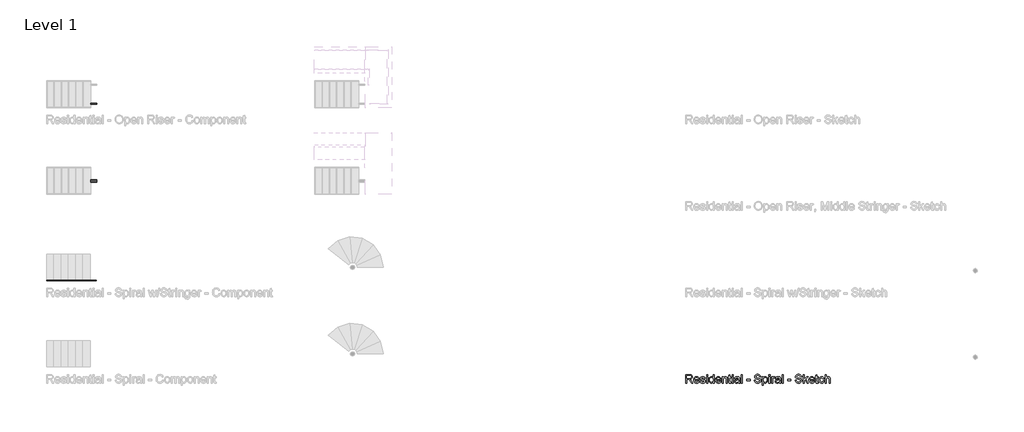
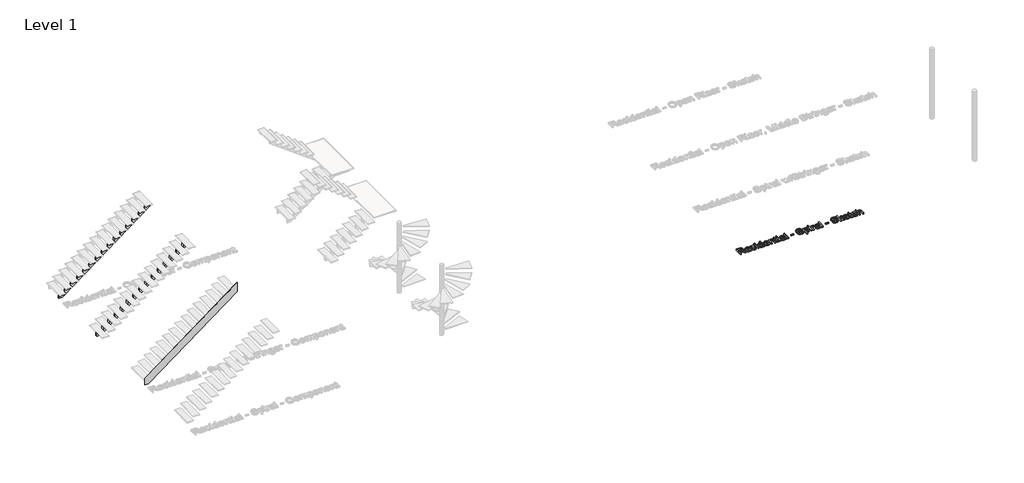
# One storey, part 4 of 26: 3 members, 1 proxy.
"""IFC4 building model written with IfcOpenShell, lengths in millimetres."""

import ifcopenshell
import ifcopenshell.guid

model = None  # the IFC model being written
_history = None  # IfcOwnerHistory: only IFC2X3 demands one
_inside = {}  # id of a spatial element -> (the spatial element, [elements in it])
_under = {}  # id of a project, library or spatial element -> (it, [spatial elements below it])
_declared = {}  # id of a project -> (the project, [libraries it declares])
_typed = {}  # id of a type object -> (the type object, [elements of that type])
_made_of = {}  # id of a material, layer set ... -> (it, [elements and type objects made of it])


def new_model(schema):
    """Start an empty IFC model of exactly this schema.

    Asked for "IFC4X3", IfcOpenShell would pick the latest addendum, in which some entities
    have other attributes; the version numbers below select the first issue.
    IFC2X3 requires an IfcOwnerHistory on every rooted entity: one is made here for all.
    """
    global model, _history
    if schema == "IFC4X3":
        model = ifcopenshell.file(schema_version=(4, 3, 0, 0))
    else:
        model = ifcopenshell.file(schema=schema)
    _inside.clear()
    _under.clear()
    _declared.clear()
    _typed.clear()
    _made_of.clear()
    _history = None
    if model.schema == "IFC2X3":
        org = make("IfcOrganization", Name="unknown")
        user = make(
            "IfcPersonAndOrganization",
            ThePerson=make("IfcPerson", FamilyName="unknown"),
            TheOrganization=org,
        )
        app = make(
            "IfcApplication",
            ApplicationDeveloper=org,
            Version="unknown",
            ApplicationFullName="unknown",
            ApplicationIdentifier="unknown",
        )
        _history = make(
            "IfcOwnerHistory",
            OwningUser=user,
            OwningApplication=app,
            ChangeAction="ADDED",
            CreationDate=0,
        )
    return model


def make(cls, **values):
    """One entity of the class cls with the attributes given. An attribute that is None is left unset."""
    return model.create_entity(
        cls, **{name: value for name, value in values.items() if value is not None}
    )


def rooted(cls, **values):
    """An entity with a GlobalId (a new one), such as an element, a storey or a relation."""
    return make(cls, GlobalId=ifcopenshell.guid.new(), OwnerHistory=_history, **values)


def si_unit(unit_type, name, prefix=None):
    """IfcSIUnit, for example si_unit("LENGTHUNIT", "METRE", prefix="MILLI")."""
    return make("IfcSIUnit", UnitType=unit_type, Prefix=prefix, Name=name)


def assignment(units):
    """IfcUnitAssignment: the units of a project."""
    return None if units is None else make("IfcUnitAssignment", Units=units)


def point(xyz):
    """IfcCartesianPoint."""
    return None if xyz is None else make("IfcCartesianPoint", Coordinates=xyz)


def direction(xyz):
    """IfcDirection."""
    return None if xyz is None else make("IfcDirection", DirectionRatios=xyz)


def frame(location, z_axis=None, x_axis=None):
    """IfcAxis2Placement3D, a coordinate frame: its origin and axes. An axis left out is left unset."""
    return make(
        "IfcAxis2Placement3D",
        Location=point(location),
        Axis=direction(z_axis),
        RefDirection=direction(x_axis),
    )


def origin():
    """The frame at (0, 0, 0) with its axes left unset."""
    return frame((0.0, 0.0, 0.0))


def origin_with_axes():
    """The frame at (0, 0, 0) with the z axis (0, 0, 1) and the x axis (1, 0, 0) written out."""
    return frame((0.0, 0.0, 0.0), z_axis=(0.0, 0.0, 1.0), x_axis=(1.0, 0.0, 0.0))


def place(relative_to, where):
    """IfcLocalPlacement: puts the frame where relative to a parent placement (None: the world)."""
    return make(
        "IfcLocalPlacement", PlacementRelTo=relative_to, RelativePlacement=where
    )


def context(
    kind, dimensions, precision=None, world=None, true_north=None, identifier=None
):
    """IfcGeometricRepresentationContext, for example the 3D "Model" context."""
    return make(
        "IfcGeometricRepresentationContext",
        ContextIdentifier=identifier,
        ContextType=kind,
        CoordinateSpaceDimension=dimensions,
        Precision=precision,
        WorldCoordinateSystem=world,
        TrueNorth=true_north,
    )


def project(units=None, contexts=None):
    """IfcProject with its units and contexts."""
    return rooted(
        "IfcProject",
        Name="project",
        RepresentationContexts=contexts,
        UnitsInContext=assignment(units),
    )


def spatial(cls, under=None, at=None, **own):
    """A site, building, storey or space (cls), placed at a placement, below another one or the project."""
    s = rooted(cls, ObjectPlacement=at, **own)
    if under is not None:
        _under.setdefault(under.id(), (under, []))[1].append(s)
    return s


def polyline(points):
    """IfcPolyline through the points."""
    return make("IfcPolyline", Points=[point(p) for p in points])


def outline(outer, holes=None, kind="AREA"):
    """IfcArbitraryClosedProfileDef: a profile drawn as a closed curve; with holes, ...WithVoids."""
    if holes is None:
        return make("IfcArbitraryClosedProfileDef", ProfileType=kind, OuterCurve=outer)
    return make(
        "IfcArbitraryProfileDefWithVoids",
        ProfileType=kind,
        OuterCurve=outer,
        InnerCurves=holes,
    )


def extrude(swept, where, along, depth):
    """IfcExtrudedAreaSolid: the profile swept, set in the frame where, extruded along a direction by depth."""
    return make(
        "IfcExtrudedAreaSolid",
        SweptArea=swept,
        Position=where,
        ExtrudedDirection=direction(along),
        Depth=depth,
    )


def shape(context_of_items, identifier, shape_type, items):
    """IfcShapeRepresentation: the items that make up one representation, for example the "Body"."""
    return make(
        "IfcShapeRepresentation",
        ContextOfItems=context_of_items,
        RepresentationIdentifier=identifier,
        RepresentationType=shape_type,
        Items=items,
    )


def made_of(thing, what):
    """Note that an element or type object is made of a material, layer set ...; save() writes the relation."""
    if what is not None:
        _made_of.setdefault(what.id(), (what, []))[1].append(thing)
    return thing


def element(
    cls,
    number,
    at=None,
    inside=None,
    cuts=None,
    type_object=None,
    material=None,
    context=None,
    identifier="Body",
    shape_type=None,
    held_by="IfcProductDefinitionShape",
    body=None,
    shapes=None,
    **own,
):
    """One element of the class cls, such as IfcWall. Its Tag is "e" and its number.

    at: its placement. inside: the storey or other place that contains it. cuts: it is an
    opening in that element (IfcRelVoidsElement). A single representation is given by context,
    identifier, shape_type and body (its items); several are given by shapes. held_by: the class
    of the entity that holds the representations. save() writes the other relations.
    """
    e = rooted(cls, Tag="e%d" % number, ObjectPlacement=at, **own)
    if body is not None:
        shapes = [shape(context, identifier, shape_type, body)]
    if shapes is not None:
        e.Representation = make(held_by, Representations=shapes)
    if inside is not None:
        _inside.setdefault(inside.id(), (inside, []))[1].append(e)
    if cuts is not None:
        rooted(
            "IfcRelVoidsElement", RelatingBuildingElement=cuts, RelatedOpeningElement=e
        )
    if type_object is not None:
        _typed.setdefault(type_object.id(), (type_object, []))[1].append(e)
    return made_of(e, material)


def aggregate(whole, parts):
    """IfcRelAggregates: a whole, such as a stair, and the parts it consists of."""
    return rooted("IfcRelAggregates", RelatingObject=whole, RelatedObjects=parts)


def save(model, path):
    """Write the relations noted so far, then the file.

    IfcRelAggregates (storeys below a building ...), IfcRelContainedInSpatialStructure (elements
    in a storey), IfcRelDefinesByType, IfcRelAssociatesMaterial and IfcRelDeclares: one each for
    every whole, place, type object, material and project.
    """
    for whole, parts in _under.values():
        aggregate(whole, parts)
    for where, things in _inside.values():
        rooted(
            "IfcRelContainedInSpatialStructure",
            RelatedElements=things,
            RelatingStructure=where,
        )
    for kind, things in _typed.values():
        rooted("IfcRelDefinesByType", RelatedObjects=things, RelatingType=kind)
    for what, things in _made_of.values():
        rooted("IfcRelAssociatesMaterial", RelatedObjects=things, RelatingMaterial=what)
    for by, libraries in _declared.values():
        rooted("IfcRelDeclares", RelatingContext=by, RelatedDefinitions=libraries)
    model.write(path)


model = new_model("IFC4")

# Units and contexts
model_context = context("Model", 3, world=origin())
ifc_project = project(units=[si_unit("LENGTHUNIT", "METRE", prefix="MILLI")], contexts=[model_context])

# Site, building, storey
site = spatial("IfcSite", under=ifc_project)
building = spatial("IfcBuilding", under=site)
storey = spatial("IfcBuildingStorey", under=building, Name="Level 1", Elevation=0.0)

# Proxy
placement = place(None, origin())
element("IfcBuildingElementProxy", 1, Name="12\" Arial", ObjectType="12\" Arial", at=placement, inside=storey, context=model_context, shape_type="SweptSolid", body=[
    extrude(outline(polyline([(-4715.4981187, -17955.1232123), (-4715.4981187, -17655.012443), (-4586.1779264, -17655.012443), (-4551.420835, -17657.0365055), (-4526.1337918, -17663.108693), (-4507.6516283, -17674.3188854), (-4493.3091764, -17691.7569623), (-4484.1047293, -17713.380544), (-4481.0365802, -17737.1472507), (-4486.1196331, -17766.7113854), (-4501.3687918, -17791.219943), (-4512.9201439, -17801.2074551), (-4527.2419889, -17809.1892219), (-4564.1971571, -17819.13552), (-4542.875811, -17835.1814815), (-4512.4690802, -17873.7943661), (-4462.4261956, -17955.1232123), (-4506.0213879, -17955.1232123), (-4545.0738879, -17892.9176354), (-4573.2825418, -17851.7403277), (-4593.1018687, -17832.2873469), (-4610.9429264, -17825.1435969), (-4632.7038879, -17823.8247507), (-4677.9842725, -17823.8247507), (-4677.9842725, -17955.1232123), (-4715.4981187, -17955.1232123)]), holes=[polyline([(-4677.9842725, -17786.3109046), (-4594.0177341, -17786.3109046), (-4569.9029985, -17784.9828998), (-4551.1918687, -17780.9988854), (-4537.1058591, -17774.0932604), (-4526.8664841, -17764.0004238), (-4520.6294408, -17751.7919382), (-4518.5504264, -17738.5393661), (-4522.5161235, -17720.2403757), (-4534.4132148, -17705.494943), (-4554.8828062, -17695.7684527), (-4584.5660033, -17692.5262892), (-4677.9842725, -17692.5262892), (-4677.9842725, -17786.3109046)])]), origin_with_axes(), (0.0, 0.0, 1.0), 50.8),
    extrude(outline(polyline([(-4265.7715802, -17889.4739815), (-4228.9904264, -17894.1632123), (-4242.2429985, -17921.8772988), (-4263.3903302, -17942.5941738), (-4291.9561716, -17955.5078757), (-4327.4642725, -17959.812443), (-4350.7409913, -17957.955526), (-4371.4807629, -17952.3847748), (-4389.6835874, -17943.1001894), (-4405.3494648, -17930.10177), (-4417.9471932, -17913.7512832), (-4426.9455706, -17894.4104959), (-4432.344597, -17872.0794082), (-4434.1442725, -17846.75802), (-4432.3262797, -17820.5780079), (-4426.8723014, -17797.5027796), (-4417.7823374, -17777.5323349), (-4405.0563879, -17760.6666738), (-4389.4317244, -17747.2675632), (-4371.6456187, -17737.69677), (-4351.6980706, -17731.954294), (-4329.5890802, -17730.0401354), (-4308.1921752, -17731.9497147), (-4288.8422293, -17737.6784527), (-4271.5392425, -17747.2263493), (-4256.2832148, -17760.5934046), (-4243.8297353, -17777.422431), (-4234.9343927, -17797.3562411), (-4229.5971872, -17820.3948349), (-4227.8181187, -17846.5382123), (-4228.0379264, -17856.6493661), (-4396.6304264, -17856.6493661), (-4390.1369408, -17884.7297988), (-4375.0526379, -17905.3734046), (-4353.2825177, -17918.0672988), (-4326.7315802, -17922.2985969), (-4306.7657148, -17920.338645), (-4289.9504264, -17914.4587892), (-4276.2857148, -17904.2926834), (-4265.7715802, -17889.4739815)]), holes=[polyline([(-4396.6304264, -17819.13552), (-4265.3319648, -17819.13552), (-4270.4058591, -17799.316193), (-4280.3521571, -17785.1385969), (-4302.2230225, -17771.9501354), (-4329.7356187, -17767.5539815), (-4355.0226619, -17771.0617459), (-4375.9318687, -17781.5850392), (-4390.4666523, -17797.9881882), (-4396.6304264, -17819.13552)])]), origin_with_axes(), (0.0, 0.0, 1.0), 50.8),
    extrude(outline(polyline([(-4204.3719648, -17889.4739815), (-4166.8581187, -17884.7847507), (-4160.9416283, -17900.8307123), (-4149.493311, -17912.6270584), (-4132.4398975, -17919.8807123), (-4109.7081187, -17922.2985969), (-4087.2510994, -17920.0822027), (-4071.4615802, -17913.43302), (-4062.1197533, -17903.7981161), (-4059.005811, -17892.6245584), (-4062.1380706, -17883.0629238), (-4071.5348494, -17875.7726354), (-4110.1477341, -17865.0753277), (-4166.638311, -17846.7213854), (-4180.9349696, -17837.4986209), (-4191.2934071, -17825.2901354), (-4197.5854023, -17810.8744142), (-4199.6827341, -17795.029943), (-4197.9975418, -17780.4951594), (-4192.9419648, -17767.0777315), (-4184.973936, -17755.3088613), (-4174.5513879, -17745.7197507), (-4150.7022533, -17734.6194623), (-4118.4271571, -17730.0401354), (-4094.010186, -17731.8810248), (-4072.7804264, -17737.403693), (-4055.7086956, -17746.0677796), (-4043.765811, -17757.3329238), (-4035.8527341, -17772.0325632), (-4030.8704264, -17791.0001354), (-4068.3842725, -17795.6893661), (-4073.1192966, -17783.8838613), (-4082.4885994, -17774.9908084), (-4096.5837677, -17769.4131882), (-4115.4963879, -17767.5539815), (-4137.0375418, -17769.3307604), (-4151.398311, -17774.6610969), (-4159.4762437, -17782.3543661), (-4162.1688879, -17791.219943), (-4157.6994648, -17802.1370584), (-4143.7050418, -17810.4164815), (-4111.393311, -17818.4028277), (-4056.3314841, -17836.0607123), (-4041.7875418, -17844.5049911), (-4030.7605225, -17856.0632123), (-4023.8091043, -17870.7720104), (-4021.4919648, -17888.66802), (-4024.212085, -17907.1685007), (-4032.3724456, -17924.569943), (-4045.6616523, -17939.5077075), (-4063.768311, -17950.6171546), (-4085.6391764, -17957.5136209), (-4110.2210033, -17959.812443), (-4148.0462437, -17955.3796546), (-4175.6504264, -17942.0812892), (-4194.0776379, -17920.0638854), (-4204.3719648, -17889.4739815)])), origin_with_axes(), (0.0, 0.0, 1.0), 50.8),
    extrude(outline(polyline([(-3979.2888879, -17955.1232123), (-3979.2888879, -17734.7293661), (-3941.7750418, -17734.7293661), (-3941.7750418, -17955.1232123), (-3979.2888879, -17955.1232123)])), origin_with_axes(), (0.0, 0.0, 1.0), 50.8),
    extrude(outline(polyline([(-3979.2888879, -17692.5262892), (-3979.2888879, -17655.012443), (-3941.7750418, -17655.012443), (-3941.7750418, -17692.5262892), (-3979.2888879, -17692.5262892)])), origin_with_axes(), (0.0, 0.0, 1.0), 50.8),
    extrude(outline(polyline([(-3749.5165802, -17955.1232123), (-3749.5165802, -17919.7341738), (-3760.7405105, -17937.2684166), (-3774.3365321, -17949.7928757), (-3790.3046451, -17957.3075512), (-3808.6448494, -17959.812443), (-3832.8969648, -17956.1856161), (-3855.0975418, -17945.3051354), (-3873.8910994, -17927.931169), (-3887.9221571, -17904.8238854), (-3896.6595129, -17876.9174671), (-3899.5719648, -17845.1460969), (-3896.8884793, -17813.7685488), (-3888.8380225, -17785.4316738), (-3875.4297533, -17761.747395), (-3856.6728302, -17744.3276354), (-3833.9868446, -17733.6120104), (-3808.7913879, -17730.0401354), (-3790.4374456, -17732.5953998), (-3774.208311, -17740.261193), (-3760.4520129, -17752.0117459), (-3749.5165802, -17766.8212892), (-3749.5165802, -17655.012443), (-3712.0027341, -17655.012443), (-3712.0027341, -17955.1232123), (-3749.5165802, -17955.1232123)]), holes=[polyline([(-3862.0581187, -17844.9995584), (-3857.8268206, -17878.9323709), (-3845.1329264, -17903.0654238), (-3826.6873975, -17917.4903036), (-3805.2011956, -17922.2985969), (-3783.7241523, -17917.7101113), (-3765.7457148, -17903.9446546), (-3753.5738639, -17880.7457844), (-3749.5165802, -17847.8570584), (-3753.6471331, -17811.9001834), (-3766.0387918, -17786.9703277), (-3784.4751619, -17772.408068), (-3806.7398494, -17767.5539815), (-3828.4458591, -17772.2157363), (-3846.2319648, -17786.2010007), (-3858.1015802, -17810.2241498), (-3862.0581187, -17844.9995584)])]), origin_with_axes(), (0.0, 0.0, 1.0), 50.8),
    extrude(outline(polyline([(-3501.4269648, -17889.4739815), (-3464.645811, -17894.1632123), (-3477.8983831, -17921.8772988), (-3499.0457148, -17942.5941738), (-3527.6115562, -17955.5078757), (-3563.1196571, -17959.812443), (-3586.3963759, -17957.955526), (-3607.1361475, -17952.3847748), (-3625.338972, -17943.1001894), (-3641.0048494, -17930.10177), (-3653.6025778, -17913.7512832), (-3662.6009552, -17894.4104959), (-3667.9999817, -17872.0794082), (-3669.7996571, -17846.75802), (-3667.9816643, -17820.5780079), (-3662.527686, -17797.5027796), (-3653.437722, -17777.5323349), (-3640.7117725, -17760.6666738), (-3625.0871091, -17747.2675632), (-3607.3010033, -17737.69677), (-3587.3534552, -17731.954294), (-3565.2444648, -17730.0401354), (-3543.8475598, -17731.9497147), (-3524.4976139, -17737.6784527), (-3507.1946271, -17747.2263493), (-3491.9385994, -17760.5934046), (-3479.4851199, -17777.422431), (-3470.5897773, -17797.3562411), (-3465.2525718, -17820.3948349), (-3463.4735033, -17846.5382123), (-3463.693311, -17856.6493661), (-3632.285811, -17856.6493661), (-3625.7923254, -17884.7297988), (-3610.7080225, -17905.3734046), (-3588.9379023, -17918.0672988), (-3562.3869648, -17922.2985969), (-3542.4210994, -17920.338645), (-3525.605811, -17914.4587892), (-3511.9410994, -17904.2926834), (-3501.4269648, -17889.4739815)]), holes=[polyline([(-3632.285811, -17819.13552), (-3500.9873494, -17819.13552), (-3506.0612437, -17799.316193), (-3516.0075418, -17785.1385969), (-3537.8784071, -17771.9501354), (-3565.3910033, -17767.5539815), (-3590.6780466, -17771.0617459), (-3611.5872533, -17781.5850392), (-3626.1220369, -17797.9881882), (-3632.285811, -17819.13552)])]), origin_with_axes(), (0.0, 0.0, 1.0), 50.8),
    extrude(outline(polyline([(-3425.9596571, -17955.1232123), (-3425.9596571, -17734.7293661), (-3388.445811, -17734.7293661), (-3388.445811, -17765.502443), (-3375.4130466, -17749.9876834), (-3359.7609071, -17738.9057123), (-3341.4893927, -17732.2565296), (-3320.5985033, -17730.0401354), (-3302.1071812, -17731.8260729), (-3285.1728302, -17737.1838854), (-3271.050186, -17745.4449911), (-3260.9939841, -17755.9408084), (-3249.7471571, -17783.5266738), (-3247.7688879, -17819.794943), (-3247.7688879, -17955.1232123), (-3285.2827341, -17955.1232123), (-3285.2827341, -17824.85052), (-3289.6056187, -17791.6595584), (-3295.5862196, -17781.7773709), (-3304.8822533, -17774.1115777), (-3316.7976619, -17769.1933805), (-3330.6363879, -17767.5539815), (-3352.6079985, -17771.2357604), (-3371.3374456, -17782.2810969), (-3378.8223555, -17791.2977916), (-3384.1687196, -17803.6207604), (-3388.445811, -17838.18552), (-3388.445811, -17955.1232123), (-3425.9596571, -17955.1232123)])), origin_with_axes(), (0.0, 0.0, 1.0), 50.8),
    extrude(outline(polyline([(-3116.4704264, -17923.8372507), (-3111.7811956, -17956.2222507), (-3139.843311, -17959.812443), (-3157.8492244, -17958.2554719), (-3171.275811, -17953.5845584), (-3180.7641764, -17946.3858565), (-3186.9554264, -17937.24552), (-3190.3624456, -17921.5475873), (-3191.4981187, -17894.6760969), (-3191.4981187, -17772.2432123), (-3219.6335033, -17772.2432123), (-3219.6335033, -17734.7293661), (-3191.4981187, -17734.7293661), (-3191.4981187, -17681.1695584), (-3153.9842725, -17659.11552), (-3153.9842725, -17734.7293661), (-3116.4704264, -17734.7293661), (-3116.4704264, -17772.2432123), (-3153.9842725, -17772.2432123), (-3153.9842725, -17893.5770584), (-3152.0060033, -17912.9201354), (-3145.5949456, -17919.7708084), (-3132.8094648, -17922.2985969), (-3116.4704264, -17923.8372507)])), origin_with_axes(), (0.0, 0.0, 1.0), 50.8),
    extrude(outline(polyline([(-3078.9565802, -17955.1232123), (-3078.9565802, -17734.7293661), (-3041.4427341, -17734.7293661), (-3041.4427341, -17955.1232123), (-3078.9565802, -17955.1232123)])), origin_with_axes(), (0.0, 0.0, 1.0), 50.8),
    extrude(outline(polyline([(-3078.9565802, -17692.5262892), (-3078.9565802, -17655.012443), (-3041.4427341, -17655.012443), (-3041.4427341, -17692.5262892), (-3078.9565802, -17692.5262892)])), origin_with_axes(), (0.0, 0.0, 1.0), 50.8),
    extrude(outline(polyline([(-2844.4950418, -17926.9878277), (-2862.4185273, -17942.3560488), (-2880.8732148, -17952.4122507), (-2900.2804023, -17957.962395), (-2921.0613879, -17959.812443), (-2952.41146, -17955.3613373), (-2975.537061, -17942.00802), (-2989.797085, -17921.7307604), (-2994.5504264, -17896.5078277), (-2992.7553302, -17880.9564334), (-2987.3700418, -17866.8337892), (-2979.0631427, -17854.7443661), (-2968.5032148, -17845.2926354), (-2942.2361956, -17832.9834046), (-2909.7779264, -17827.3416738), (-2871.4214841, -17821.4068661), (-2844.7148494, -17814.4462892), (-2844.4950418, -17806.0935969), (-2847.0777821, -17789.3515777), (-2854.8260033, -17778.3978277), (-2872.1541764, -17770.264943), (-2896.2963879, -17767.5539815), (-2918.6435033, -17769.3582363), (-2934.2498494, -17774.7710007), (-2944.8922052, -17784.7814094), (-2952.3473494, -17800.3785969), (-2989.8611956, -17795.6893661), (-2983.3493927, -17775.1739815), (-2973.632061, -17759.0547507), (-2959.8024937, -17746.7272027), (-2940.9539841, -17737.5868661), (-2917.9016523, -17731.926818), (-2891.4606187, -17730.0401354), (-2866.1003062, -17731.7070104), (-2845.997061, -17736.7076354), (-2830.8394889, -17744.2268902), (-2820.3161956, -17753.4496546), (-2813.3373014, -17764.8521786), (-2808.8129264, -17778.9107123), (-2806.9811956, -17811.7353277), (-2806.9811956, -17858.4078277), (-2805.0761956, -17923.5808084), (-2797.6027341, -17955.1232123), (-2835.1165802, -17955.1232123), (-2844.4950418, -17926.9878277)]), holes=[polyline([(-2844.4950418, -17851.9601354), (-2905.0154264, -17863.4634046), (-2937.2905225, -17869.5447507), (-2951.9077341, -17879.4360969), (-2957.0365802, -17893.8701354), (-2954.2431908, -17905.0253757), (-2945.8630225, -17914.1657123), (-2932.0792485, -17920.2653757), (-2913.0750418, -17922.2985969), (-2892.9260033, -17920.0547267), (-2875.1215802, -17913.3231161), (-2860.6875418, -17903.404294), (-2850.6496571, -17891.5987892), (-2846.1985514, -17879.4360969), (-2844.7148494, -17862.5841738), (-2844.4950418, -17851.9601354)])]), origin_with_axes(), (0.0, 0.0, 1.0), 50.8),
    extrude(outline(polyline([(-2755.3996571, -17955.1232123), (-2755.3996571, -17655.012443), (-2717.885811, -17655.012443), (-2717.885811, -17955.1232123), (-2755.3996571, -17955.1232123)])), origin_with_axes(), (0.0, 0.0, 1.0), 50.8),
    extrude(outline(polyline([(-2563.1411956, -17866.0278277), (-2563.1411956, -17828.5139815), (-2445.9104264, -17828.5139815), (-2445.9104264, -17866.0278277), (-2563.1411956, -17866.0278277)])), origin_with_axes(), (0.0, 0.0, 1.0), 50.8),
    extrude(outline(polyline([(-2295.8550418, -17851.9601354), (-2258.3411956, -17851.9601354), (-2254.0366283, -17872.7777555), (-2246.2517725, -17889.5106161), (-2234.1073975, -17902.7906642), (-2216.7242725, -17913.2498469), (-2195.4761956, -17920.0364094), (-2171.7369648, -17922.2985969), (-2150.8369168, -17920.5859286), (-2132.5379264, -17915.4479238), (-2117.7100658, -17907.3150392), (-2107.2234071, -17896.6177315), (-2100.9863639, -17884.3359767), (-2098.9073494, -17871.4497507), (-2100.4643206, -17858.8932363), (-2105.1352341, -17848.0402315), (-2114.6235994, -17838.7808325), (-2130.6329264, -17831.0051354), (-2185.2551379, -17816.6810007), (-2221.1112677, -17807.201794), (-2244.0536956, -17798.18052), (-2262.7281908, -17785.559895), (-2275.9624456, -17770.264943), (-2283.8480466, -17752.6253757), (-2286.4765802, -17732.9709046), (-2283.2252581, -17710.999294), (-2273.4712918, -17690.5113854), (-2257.4711235, -17673.1465777), (-2235.4811956, -17660.54427), (-2209.0859552, -17652.8784767), (-2179.8698494, -17650.3232123), (-2148.2175418, -17652.9975392), (-2120.5217725, -17661.02052), (-2097.7716764, -17674.2272988), (-2080.9563879, -17692.45302), (-2070.3140321, -17714.5620104), (-2066.0827341, -17739.4185969), (-2103.5965802, -17739.4185969), (-2110.4838879, -17717.0348469), (-2124.8446571, -17700.8789815), (-2147.2833591, -17691.0975392), (-2178.4044648, -17687.8370584), (-2210.2582629, -17691.0609046), (-2232.110811, -17700.732443), (-2244.7497533, -17714.9649911), (-2248.9627341, -17731.8718661), (-2245.9770129, -17746.2875873), (-2237.0198494, -17757.882443), (-2215.8450418, -17768.2500392), (-2175.7667725, -17778.837443), (-2134.4062918, -17788.893645), (-2109.3848494, -17797.6676354), (-2087.9993927, -17811.277395), (-2073.0799456, -17828.0743661), (-2064.3151139, -17847.8753757), (-2061.3935033, -17870.4972507), (-2064.7547293, -17893.6228517), (-2074.8384071, -17915.3746546), (-2091.2323975, -17934.094943), (-2113.524561, -17948.1260007), (-2140.3319408, -17956.8908325), (-2170.2715802, -17959.812443), (-2207.0252581, -17956.6618661), (-2237.2762918, -17947.2101354), (-2261.37271, -17931.4206161), (-2279.6625418, -17909.2566738), (-2291.403936, -17882.2569623), (-2295.8550418, -17851.9601354)])), origin_with_axes(), (0.0, 0.0, 1.0), 50.8),
    extrude(outline(polyline([(-2009.8119648, -18039.5293661), (-2009.8119648, -17734.7293661), (-1972.2981187, -17734.7293661), (-1972.2981187, -17771.51052), (-1960.0621571, -17753.3672267), (-1946.360811, -17740.4077315), (-1930.3881187, -17732.6320344), (-1911.3381187, -17730.0401354), (-1885.9686475, -17733.6669623), (-1863.7863879, -17744.547443), (-1845.7255225, -17762.0221546), (-1832.7202341, -17785.4316738), (-1824.8621091, -17813.0724911), (-1822.2427341, -17843.2410969), (-1825.2009793, -17875.3238613), (-1834.0757148, -17904.0179238), (-1848.5830225, -17927.8670584), (-1868.4389841, -17945.4150392), (-1891.564585, -17956.2130921), (-1915.880811, -17959.812443), (-1933.1265562, -17957.4037171), (-1948.5222533, -17950.1775392), (-1961.7015562, -17939.2695825), (-1972.2981187, -17925.81552), (-1972.2981187, -18039.5293661), (-2009.8119648, -18039.5293661)]), holes=[polyline([(-1972.2981187, -17846.6847507), (-1968.240835, -17880.3153277), (-1956.0689841, -17903.8347507), (-1938.1088639, -17917.6826354), (-1916.6867725, -17922.2985969), (-1894.9166523, -17917.5177796), (-1876.4985994, -17903.1753277), (-1863.942085, -17878.7949911), (-1859.7565802, -17843.90052), (-1863.8413398, -17810.4531161), (-1876.0956187, -17786.6039815), (-1894.0282629, -17772.3164815), (-1915.1481187, -17767.5539815), (-1936.3504023, -17772.6187171), (-1954.9699456, -17787.8129238), (-1967.9660754, -17812.6603517), (-1972.2981187, -17846.6847507)])]), origin_with_axes(), (0.0, 0.0, 1.0), 50.8),
    extrude(outline(polyline([(-1780.0396571, -17955.1232123), (-1780.0396571, -17734.7293661), (-1742.525811, -17734.7293661), (-1742.525811, -17955.1232123), (-1780.0396571, -17955.1232123)])), origin_with_axes(), (0.0, 0.0, 1.0), 50.8),
    extrude(outline(polyline([(-1780.0396571, -17692.5262892), (-1780.0396571, -17655.012443), (-1742.525811, -17655.012443), (-1742.525811, -17692.5262892), (-1780.0396571, -17692.5262892)])), origin_with_axes(), (0.0, 0.0, 1.0), 50.8),
    extrude(outline(polyline([(-1686.2550418, -17955.1232123), (-1686.2550418, -17734.7293661), (-1653.4304264, -17734.7293661), (-1653.4304264, -17767.3341738), (-1641.3043687, -17748.4307123), (-1630.130811, -17737.2937892), (-1618.9206187, -17731.8535488), (-1606.6846571, -17730.0401354), (-1588.0010033, -17732.93427), (-1569.0242725, -17741.6166738), (-1581.553311, -17775.2472507), (-1594.7417725, -17769.4772988), (-1607.9302341, -17767.5539815), (-1619.1312677, -17769.4040296), (-1629.1416764, -17774.9541738), (-1637.2287677, -17783.7831161), (-1642.6598494, -17795.4695584), (-1647.2208591, -17816.4245584), (-1648.7411956, -17839.2845584), (-1648.7411956, -17955.1232123), (-1686.2550418, -17955.1232123)])), origin_with_axes(), (0.0, 0.0, 1.0), 50.8),
    extrude(outline(polyline([(-1404.9011956, -17926.9878277), (-1422.8246812, -17942.3560488), (-1441.2793687, -17952.4122507), (-1460.6865562, -17957.962395), (-1481.4675418, -17959.812443), (-1512.8176139, -17955.3613373), (-1535.9432148, -17942.00802), (-1550.2032389, -17921.7307604), (-1554.9565802, -17896.5078277), (-1553.1614841, -17880.9564334), (-1547.7761956, -17866.8337892), (-1539.4692966, -17854.7443661), (-1528.9093687, -17845.2926354), (-1502.6423494, -17832.9834046), (-1470.1840802, -17827.3416738), (-1431.8276379, -17821.4068661), (-1405.1210033, -17814.4462892), (-1404.9011956, -17806.0935969), (-1407.483936, -17789.3515777), (-1415.2321571, -17778.3978277), (-1432.5603302, -17770.264943), (-1456.7025418, -17767.5539815), (-1479.0496571, -17769.3582363), (-1494.6560033, -17774.7710007), (-1505.2983591, -17784.7814094), (-1512.7535033, -17800.3785969), (-1550.2673494, -17795.6893661), (-1543.7555466, -17775.1739815), (-1534.0382148, -17759.0547507), (-1520.2086475, -17746.7272027), (-1501.3601379, -17737.5868661), (-1478.3078062, -17731.926818), (-1451.8667725, -17730.0401354), (-1426.50646, -17731.7070104), (-1406.4032148, -17736.7076354), (-1391.2456427, -17744.2268902), (-1380.7223494, -17753.4496546), (-1373.7434552, -17764.8521786), (-1369.2190802, -17778.9107123), (-1367.3873494, -17811.7353277), (-1367.3873494, -17858.4078277), (-1365.4823494, -17923.5808084), (-1358.0088879, -17955.1232123), (-1395.5227341, -17955.1232123), (-1404.9011956, -17926.9878277)]), holes=[polyline([(-1404.9011956, -17851.9601354), (-1465.4215802, -17863.4634046), (-1497.6966764, -17869.5447507), (-1512.3138879, -17879.4360969), (-1517.4427341, -17893.8701354), (-1514.6493446, -17905.0253757), (-1506.2691764, -17914.1657123), (-1492.4854023, -17920.2653757), (-1473.4811956, -17922.2985969), (-1453.3321571, -17920.0547267), (-1435.5277341, -17913.3231161), (-1421.0936956, -17903.404294), (-1411.055811, -17891.5987892), (-1406.6047052, -17879.4360969), (-1405.1210033, -17862.5841738), (-1404.9011956, -17851.9601354)])]), origin_with_axes(), (0.0, 0.0, 1.0), 50.8),
    extrude(outline(polyline([(-1315.805811, -17955.1232123), (-1315.805811, -17655.012443), (-1278.2919648, -17655.012443), (-1278.2919648, -17955.1232123), (-1315.805811, -17955.1232123)])), origin_with_axes(), (0.0, 0.0, 1.0), 50.8),
    extrude(outline(polyline([(-1123.5473494, -17866.0278277), (-1123.5473494, -17828.5139815), (-1006.3165802, -17828.5139815), (-1006.3165802, -17866.0278277), (-1123.5473494, -17866.0278277)])), origin_with_axes(), (0.0, 0.0, 1.0), 50.8),
    extrude(outline(polyline([(-856.2611956, -17851.9601354), (-818.7473494, -17851.9601354), (-814.4427821, -17872.7777555), (-806.6579264, -17889.5106161), (-794.5135514, -17902.7906642), (-777.1304264, -17913.2498469), (-755.8823494, -17920.0364094), (-732.1431187, -17922.2985969), (-711.2430706, -17920.5859286), (-692.9440802, -17915.4479238), (-678.1162196, -17907.3150392), (-667.629561, -17896.6177315), (-661.3925177, -17884.3359767), (-659.3135033, -17871.4497507), (-660.8704744, -17858.8932363), (-665.5413879, -17848.0402315), (-675.0297533, -17838.7808325), (-691.0390802, -17831.0051354), (-745.6612918, -17816.6810007), (-781.5174216, -17807.201794), (-804.4598494, -17798.18052), (-823.1343446, -17785.559895), (-836.3685994, -17770.264943), (-844.2542004, -17752.6253757), (-846.8827341, -17732.9709046), (-843.6314119, -17710.999294), (-833.8774456, -17690.5113854), (-817.8772773, -17673.1465777), (-795.8873494, -17660.54427), (-769.4921091, -17652.8784767), (-740.2760033, -17650.3232123), (-708.6236956, -17652.9975392), (-680.9279264, -17661.02052), (-658.1778302, -17674.2272988), (-641.3625418, -17692.45302), (-630.720186, -17714.5620104), (-626.4888879, -17739.4185969), (-664.0027341, -17739.4185969), (-670.8900418, -17717.0348469), (-685.250811, -17700.8789815), (-707.6895129, -17691.0975392), (-738.8106187, -17687.8370584), (-770.6644168, -17691.0609046), (-792.5169648, -17700.732443), (-805.1559071, -17714.9649911), (-809.3688879, -17731.8718661), (-806.3831668, -17746.2875873), (-797.4260033, -17757.882443), (-776.2511956, -17768.2500392), (-736.1729264, -17778.837443), (-694.8124456, -17788.893645), (-669.7910033, -17797.6676354), (-648.4055466, -17811.277395), (-633.4860994, -17828.0743661), (-624.7212677, -17847.8753757), (-621.7996571, -17870.4972507), (-625.1608831, -17893.6228517), (-635.244561, -17915.3746546), (-651.6385514, -17934.094943), (-673.9307148, -17948.1260007), (-700.7380946, -17956.8908325), (-730.6777341, -17959.812443), (-767.4314119, -17956.6618661), (-797.6824456, -17947.2101354), (-821.7788639, -17931.4206161), (-840.0686956, -17909.2566738), (-851.8100898, -17882.2569623), (-856.2611956, -17851.9601354)])), origin_with_axes(), (0.0, 0.0, 1.0), 50.8),
    extrude(outline(polyline([(-570.2181187, -17955.1232123), (-570.2181187, -17655.012443), (-532.7042725, -17655.012443), (-532.7042725, -17816.27802), (-448.5911956, -17734.7293661), (-396.7165802, -17734.7293661), (-481.8554264, -17817.3037892), (-392.0273494, -17955.1232123), (-435.8423494, -17955.1232123), (-508.7452341, -17843.3876354), (-532.7042725, -17866.6139815), (-532.7042725, -17955.1232123), (-570.2181187, -17955.1232123)])), origin_with_axes(), (0.0, 0.0, 1.0), 50.8),
    extrude(outline(polyline([(-204.8977341, -17889.4739815), (-168.1165802, -17894.1632123), (-181.3691523, -17921.8772988), (-202.5164841, -17942.5941738), (-231.0823254, -17955.5078757), (-266.5904264, -17959.812443), (-289.8671451, -17957.955526), (-310.6069168, -17952.3847748), (-328.8097413, -17943.1001894), (-344.4756187, -17930.10177), (-357.073347, -17913.7512832), (-366.0717244, -17894.4104959), (-371.4707509, -17872.0794082), (-373.2704264, -17846.75802), (-371.4524336, -17820.5780079), (-365.9984552, -17797.5027796), (-356.9084913, -17777.5323349), (-344.1825418, -17760.6666738), (-328.5578783, -17747.2675632), (-310.7717725, -17737.69677), (-290.8242244, -17731.954294), (-268.7152341, -17730.0401354), (-247.318329, -17731.9497147), (-227.9683831, -17737.6784527), (-210.6653963, -17747.2263493), (-195.4093687, -17760.5934046), (-182.9558891, -17777.422431), (-174.0605466, -17797.3562411), (-168.723341, -17820.3948349), (-166.9442725, -17846.5382123), (-167.1640802, -17856.6493661), (-335.7565802, -17856.6493661), (-329.2630946, -17884.7297988), (-314.1787918, -17905.3734046), (-292.4086716, -17918.0672988), (-265.8577341, -17922.2985969), (-245.8918687, -17920.338645), (-229.0765802, -17914.4587892), (-215.4118687, -17904.2926834), (-204.8977341, -17889.4739815)]), holes=[polyline([(-335.7565802, -17819.13552), (-204.4581187, -17819.13552), (-209.5320129, -17799.316193), (-219.478311, -17785.1385969), (-241.3491764, -17771.9501354), (-268.8617725, -17767.5539815), (-294.1488158, -17771.0617459), (-315.0580225, -17781.5850392), (-329.5928062, -17797.9881882), (-335.7565802, -17819.13552)])]), origin_with_axes(), (0.0, 0.0, 1.0), 50.8),
    extrude(outline(polyline([(-49.7135033, -17923.8372507), (-45.0242725, -17956.2222507), (-73.0863879, -17959.812443), (-91.0923014, -17958.2554719), (-104.5188879, -17953.5845584), (-114.0072533, -17946.3858565), (-120.1985033, -17937.24552), (-123.6055225, -17921.5475873), (-124.7411956, -17894.6760969), (-124.7411956, -17772.2432123), (-152.8765802, -17772.2432123), (-152.8765802, -17734.7293661), (-124.7411956, -17734.7293661), (-124.7411956, -17681.1695584), (-87.2273494, -17659.11552), (-87.2273494, -17734.7293661), (-49.7135033, -17734.7293661), (-49.7135033, -17772.2432123), (-87.2273494, -17772.2432123), (-87.2273494, -17893.5770584), (-85.2490802, -17912.9201354), (-78.8380225, -17919.7708084), (-66.0525418, -17922.2985969), (-49.7135033, -17923.8372507)])), origin_with_axes(), (0.0, 0.0, 1.0), 50.8),
    extrude(outline(polyline([(128.4772659, -17875.4062892), (165.9911121, -17880.09552), (155.5319294, -17913.4604959), (135.8774582, -17938.67427), (108.8777467, -17954.5278998), (76.3828429, -17959.812443), (55.3431253, -17957.969264), (36.4785881, -17952.4397267), (19.7892311, -17943.2238313), (5.2750544, -17930.3215777), (-6.4732088, -17913.9756702), (-14.8648254, -17894.4288132), (-19.8997954, -17871.6810067), (-21.5781187, -17845.7322507), (-18.71146, -17812.3489575), (-10.1114841, -17783.41677), (4.359189, -17760.053044), (24.837939, -17743.3751354), (49.3373381, -17733.3738854), (75.8699582, -17730.0401354), (107.5680592, -17734.6194623), (132.9100544, -17748.357443), (151.0899823, -17770.5213854), (161.3018813, -17800.3785969), (123.7880352, -17805.0678277), (116.9831554, -17788.7013132), (106.3865929, -17776.9690777), (92.5845015, -17769.9077555), (76.1630352, -17767.5539815), (51.9200784, -17772.1882604), (32.6777467, -17786.0910969), (20.1212323, -17810.0135007), (15.9357275, -17844.7064815), (20.0296457, -17879.8665536), (32.3114006, -17903.8713854), (51.2057034, -17917.691794), (75.1372659, -17922.2985969), (94.5627707, -17919.4227796), (110.4896698, -17910.7953277), (122.0753669, -17896.1964334), (128.4772659, -17875.4062892)])), origin_with_axes(), (0.0, 0.0, 1.0), 50.8),
    extrude(outline(polyline([(198.8157275, -17955.1232123), (198.8157275, -17655.012443), (236.3295736, -17655.012443), (236.3295736, -17765.3559046), (250.1087683, -17749.9052555), (265.582314, -17738.8690777), (282.7502107, -17732.2473709), (301.6124582, -17730.0401354), (324.2709679, -17732.4488613), (343.7422659, -17739.6750392), (359.0738525, -17751.1508325), (369.3132275, -17766.3084046), (375.0831794, -17787.1351834), (377.0064967, -17815.6185969), (377.0064967, -17955.1232123), (339.4926506, -17955.1232123), (339.4926506, -17819.5018661), (336.5069294, -17796.0190777), (327.5497659, -17779.9364815), (313.1157275, -17770.6496065), (293.6993813, -17767.5539815), (277.8457515, -17769.6421546), (262.962939, -17775.9066738), (250.6353909, -17785.743068), (242.4475544, -17798.5468661), (237.8590688, -17815.563645), (236.3295736, -17838.0389815), (236.3295736, -17955.1232123), (198.8157275, -17955.1232123)])), origin_with_axes(), (0.0, 0.0, 1.0), 50.8),
])

# Members
element("IfcMember", 2, at=placement, inside=storey, context=model_context, shape_type="SweptSolid", body=[
    extrude(outline(polyline([(2733.675, -23420.8481446), (2832.1, -23420.8481446), (2832.1, -23649.4481446), (2641.6, -23649.4481446), (2641.6, -23903.4481446), (2451.1, -23903.4481446), (2451.1, -24157.4481446), (2260.6, -24157.4481446), (2260.6, -24411.4481446), (2070.1, -24411.4481446), (2070.1, -24665.4481446), (1879.6, -24665.4481446), (1879.6, -24919.4481446), (1689.1, -24919.4481446), (1689.1, -25173.4481446), (1498.6, -25173.4481446), (1498.6, -25427.4481446), (1308.1, -25427.4481446), (1308.1, -25681.4481446), (1117.6, -25681.4481446), (1117.6, -25935.4481446), (927.1, -25935.4481446), (927.1, -26189.4481446), (736.6, -26189.4481446), (736.6, -26443.4481446), (546.1, -26443.4481446), (546.1, -26697.4481446), (355.6, -26697.4481446), (355.6, -26951.4481446), (165.1, -26951.4481446), (165.1, -27205.4481446), (0.0, -27205.4481446), (0.0, -27065.7481446), (2733.675, -23420.8481446)])), frame((0.0, -8134.4871906, 0.0), z_axis=(0.0, 1.0, 0.0), x_axis=(0.0, 0.0, 1.0)), (0.0, 0.0, 1.0), 38.1),
])
element("IfcMember", 3, ObjectType="Carriage - Unassigned - 3 1/2\" Width", at=placement, inside=storey, context=model_context, shape_type="SweptSolid", body=[
    extrude(outline(polyline([(2733.675, -23420.8481446), (2832.1, -23420.8481446), (2832.1, -23649.4481446), (2641.6, -23649.4481446), (2641.6, -23903.4481446), (2451.1, -23903.4481446), (2451.1, -24157.4481446), (2260.6, -24157.4481446), (2260.6, -24411.4481446), (2070.1, -24411.4481446), (2070.1, -24665.4481446), (1879.6, -24665.4481446), (1879.6, -24919.4481446), (1689.1, -24919.4481446), (1689.1, -25173.4481446), (1498.6, -25173.4481446), (1498.6, -25427.4481446), (1308.1, -25427.4481446), (1308.1, -25681.4481446), (1117.6, -25681.4481446), (1117.6, -25935.4481446), (927.1, -25935.4481446), (927.1, -26189.4481446), (736.6, -26189.4481446), (736.6, -26443.4481446), (546.1, -26443.4481446), (546.1, -26697.4481446), (355.6, -26697.4481446), (355.6, -26951.4481446), (165.1, -26951.4481446), (165.1, -27205.4481446), (0.0, -27205.4481446), (0.0, -27065.7481446), (2733.675, -23420.8481446)])), frame((0.0, -10871.3371906, 0.0), z_axis=(0.0, 1.0, 0.0), x_axis=(0.0, 0.0, 1.0)), (0.0, 0.0, 1.0), 88.9),
])
element("IfcMember", 4, ObjectType="Stringer - Unassigned - 3/4\" Width (3)", at=placement, inside=storey, context=model_context, shape_type="SweptSolid", body=[
    extrude(outline(polyline([(276.225, -27230.8481446), (0.0, -27230.8481446), (0.0, -27091.1481446), (2752.725, -23420.8481446), (3133.725, -23420.8481446), (276.225, -27230.8481446)])), frame((0.0, -14351.1371906, 0.0), z_axis=(0.0, 1.0, 0.0), x_axis=(0.0, 0.0, 1.0)), (0.0, 0.0, 1.0), 19.05),
])

save(model, "model.ifc")
